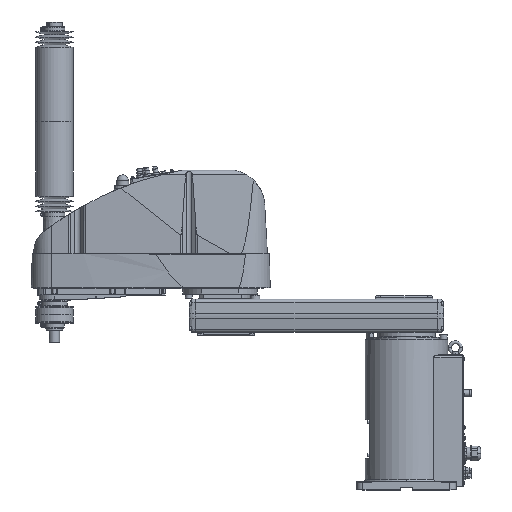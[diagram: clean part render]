
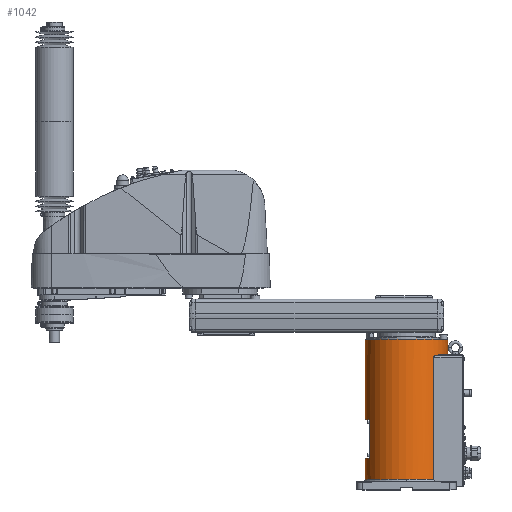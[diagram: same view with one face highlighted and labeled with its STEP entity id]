
A CAD part, top view. The second image highlights one B-rep face of the part: STEP entity #1042.
In plain terms, the highlighted cylindrical face has radius 100 mm (diameter 200 mm), a partial arc.
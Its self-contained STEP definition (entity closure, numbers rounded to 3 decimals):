
#1042 = ADVANCED_FACE( '', ( #3805 ), #3806, .T. );
#3805 = FACE_OUTER_BOUND( '', #8164, .T. );
#3806 = CYLINDRICAL_SURFACE( '', #8165, 100. );
#8164 = EDGE_LOOP( '', ( #16080, #16081, #16082, #16083, #16084, #16085, #16086, #16087, #16088, #16089, #16090, #16091, #16092, #16093, #16094, #16095 ) );
#8165 = AXIS2_PLACEMENT_3D( '', #16096, #16097, #16098 );
#16080 = ORIENTED_EDGE( '', *, *, #27199, .T. );
#16081 = ORIENTED_EDGE( '', *, *, #27916, .F. );
#16082 = ORIENTED_EDGE( '', *, *, #27213, .T. );
#16083 = ORIENTED_EDGE( '', *, *, #28051, .T. );
#16084 = ORIENTED_EDGE( '', *, *, #28049, .T. );
#16085 = ORIENTED_EDGE( '', *, *, #28039, .T. );
#16086 = ORIENTED_EDGE( '', *, *, #27209, .T. );
#16087 = ORIENTED_EDGE( '', *, *, #27551, .T. );
#16088 = ORIENTED_EDGE( '', *, *, #27548, .T. );
#16089 = ORIENTED_EDGE( '', *, *, #28193, .T. );
#16090 = ORIENTED_EDGE( '', *, *, #28157, .T. );
#16091 = ORIENTED_EDGE( '', *, *, #28199, .T. );
#16092 = ORIENTED_EDGE( '', *, *, #28659, .T. );
#16093 = ORIENTED_EDGE( '', *, *, #28660, .T. );
#16094 = ORIENTED_EDGE( '', *, *, #28661, .T. );
#16095 = ORIENTED_EDGE( '', *, *, #28662, .T. );
#16096 = CARTESIAN_POINT( '', ( 0., 194., 0. ) );
#16097 = DIRECTION( '', ( 0., -1., 0. ) );
#16098 = DIRECTION( '', ( 1., 0., 0. ) );
#27199 = EDGE_CURVE( '', #32278, #32279, #32280, .T. );
#27209 = EDGE_CURVE( '', #32299, #32297, #32300, .T. );
#27213 = EDGE_CURVE( '', #32307, #32305, #32308, .T. );
#27548 = EDGE_CURVE( '', #32952, #32957, #32959, .T. );
#27551 = EDGE_CURVE( '', #32297, #32952, #32963, .T. );
#27916 = EDGE_CURVE( '', #32307, #32279, #33560, .T. );
#28039 = EDGE_CURVE( '', #33760, #32299, #33761, .T. );
#28049 = EDGE_CURVE( '', #33779, #33760, #33780, .T. );
#28051 = EDGE_CURVE( '', #32305, #33779, #33782, .T. );
#28157 = EDGE_CURVE( '', #33949, #33947, #33950, .T. );
#28193 = EDGE_CURVE( '', #32957, #33949, #34014, .T. );
#28199 = EDGE_CURVE( '', #33947, #34021, #34023, .T. );
#28659 = EDGE_CURVE( '', #34021, #34685, #34686, .T. );
#28660 = EDGE_CURVE( '', #34685, #34687, #34688, .T. );
#28661 = EDGE_CURVE( '', #34687, #34689, #34690, .T. );
#28662 = EDGE_CURVE( '', #34689, #32278, #34691, .T. );
#32278 = VERTEX_POINT( '', #40584 );
#32279 = VERTEX_POINT( '', #40585 );
#32280 = LINE( '', #40586, #40587 );
#32297 = VERTEX_POINT( '', #40624 );
#32299 = VERTEX_POINT( '', #40626 );
#32300 = LINE( '', #40627, #40628 );
#32305 = VERTEX_POINT( '', #40634 );
#32307 = VERTEX_POINT( '', #40636 );
#32308 = LINE( '', #40637, #40638 );
#32952 = VERTEX_POINT( '', #41486 );
#32957 = VERTEX_POINT( '', #41491 );
#32959 = CIRCLE( '', #41520, 100. );
#32963 = CIRCLE( '', #41524, 100. );
#33560 = CIRCLE( '', #42453, 100. );
#33760 = VERTEX_POINT( '', #42766 );
#33761 = CIRCLE( '', #42767, 100. );
#33779 = VERTEX_POINT( '', #42794 );
#33780 = LINE( '', #42795, #42796 );
#33782 = CIRCLE( '', #42799, 100. );
#33947 = VERTEX_POINT( '', #43054 );
#33949 = VERTEX_POINT( '', #43057 );
#33950 = B_SPLINE_CURVE_WITH_KNOTS( '', 3, ( #43058, #43059, #43060, #43061, #43062, #43063, #43064, #43065, #43066, #43067, #43068, #43069, #43070, #43071, #43072, #43073, #43074, #43075 ), .UNSPECIFIED., .F., .F., ( 4, 2, 2, 2, 2, 2, 2, 2, 4 ), ( 14.722, 15.472, 16.222, 16.971, 17.721, 18.842, 19.962, 21.082, 22.202 ), .UNSPECIFIED. );
#34014 = LINE( '', #43173, #43174 );
#34021 = VERTEX_POINT( '', #43185 );
#34023 = CIRCLE( '', #43188, 100. );
#34685 = VERTEX_POINT( '', #44210 );
#34686 = LINE( '', #44211, #44212 );
#34687 = VERTEX_POINT( '', #44213 );
#34688 = CIRCLE( '', #44214, 100. );
#34689 = VERTEX_POINT( '', #44215 );
#34690 = LINE( '', #44216, #44217 );
#34691 = CIRCLE( '', #44218, 100. );
#40584 = CARTESIAN_POINT( '', ( 100., 324., 0. ) );
#40585 = CARTESIAN_POINT( '', ( 100., 363., 0. ) );
#40586 = CARTESIAN_POINT( '', ( 100., 194., 0. ) );
#40587 = VECTOR( '', #54313, 1. );
#40624 = CARTESIAN_POINT( '', ( -100., 25., 0. ) );
#40626 = CARTESIAN_POINT( '', ( -100., 76.7, 0. ) );
#40627 = CARTESIAN_POINT( '', ( -100., 194., 0. ) );
#40628 = VECTOR( '', #54332, 1. );
#40634 = CARTESIAN_POINT( '', ( -100., 169.7, 0. ) );
#40636 = CARTESIAN_POINT( '', ( -100., 363., 0. ) );
#40637 = CARTESIAN_POINT( '', ( -100., 194., 0. ) );
#40638 = VECTOR( '', #54340, 1. );
#41486 = CARTESIAN_POINT( '', ( 0., 25., 100. ) );
#41491 = CARTESIAN_POINT( '', ( 66.144, 25., 75. ) );
#41520 = AXIS2_PLACEMENT_3D( '', #55010, #55011, #55012 );
#41524 = AXIS2_PLACEMENT_3D( '', #55019, #55020, #55021 );
#42453 = AXIS2_PLACEMENT_3D( '', #55450, #55451, #55452 );
#42766 = CARTESIAN_POINT( '', ( -88., 76.7, 47.497 ) );
#42767 = AXIS2_PLACEMENT_3D( '', #55644, #55645, #55646 );
#42794 = CARTESIAN_POINT( '', ( -88., 169.7, 47.497 ) );
#42795 = CARTESIAN_POINT( '', ( -88., 123.2, 47.497 ) );
#42796 = VECTOR( '', #55656, 1. );
#42799 = AXIS2_PLACEMENT_3D( '', #55658, #55659, #55660 );
#43054 = CARTESIAN_POINT( '', ( 70.42, 324., 71. ) );
#43057 = CARTESIAN_POINT( '', ( 66.144, 320., 75. ) );
#43058 = CARTESIAN_POINT( '', ( 66.144, 320., 75. ) );
#43059 = CARTESIAN_POINT( '', ( 66.144, 320.25, 75. ) );
#43060 = CARTESIAN_POINT( '', ( 66.171, 320.503, 74.976 ) );
#43061 = CARTESIAN_POINT( '', ( 66.277, 320.995, 74.882 ) );
#43062 = CARTESIAN_POINT( '', ( 66.356, 321.234, 74.812 ) );
#43063 = CARTESIAN_POINT( '', ( 66.555, 321.685, 74.636 ) );
#43064 = CARTESIAN_POINT( '', ( 66.674, 321.897, 74.529 ) );
#43065 = CARTESIAN_POINT( '', ( 66.938, 322.284, 74.292 ) );
#43066 = CARTESIAN_POINT( '', ( 67.082, 322.458, 74.162 ) );
#43067 = CARTESIAN_POINT( '', ( 67.446, 322.842, 73.831 ) );
#43068 = CARTESIAN_POINT( '', ( 67.688, 323.046, 73.61 ) );
#43069 = CARTESIAN_POINT( '', ( 68.203, 323.396, 73.134 ) );
#43070 = CARTESIAN_POINT( '', ( 68.475, 323.543, 72.879 ) );
#43071 = CARTESIAN_POINT( '', ( 69.031, 323.776, 72.352 ) );
#43072 = CARTESIAN_POINT( '', ( 69.316, 323.861, 72.08 ) );
#43073 = CARTESIAN_POINT( '', ( 69.877, 323.974, 71.535 ) );
#43074 = CARTESIAN_POINT( '', ( 70.155, 324., 71.263 ) );
#43075 = CARTESIAN_POINT( '', ( 70.42, 324., 71. ) );
#43173 = CARTESIAN_POINT( '', ( 66.144, 172.5, 75. ) );
#43174 = VECTOR( '', #55831, 1. );
#43185 = CARTESIAN_POINT( '', ( 75.993, 324., 65. ) );
#43188 = AXIS2_PLACEMENT_3D( '', #55837, #55838, #55839 );
#44210 = CARTESIAN_POINT( '', ( 75.993, 326., 65. ) );
#44211 = CARTESIAN_POINT( '', ( 75.993, 325., 65. ) );
#44212 = VECTOR( '', #56667, 1. );
#44213 = CARTESIAN_POINT( '', ( 89.303, 326., 45. ) );
#44214 = AXIS2_PLACEMENT_3D( '', #56668, #56669, #56670 );
#44215 = CARTESIAN_POINT( '', ( 89.303, 324., 45. ) );
#44216 = CARTESIAN_POINT( '', ( 89.303, 325., 45. ) );
#44217 = VECTOR( '', #56671, 1. );
#44218 = AXIS2_PLACEMENT_3D( '', #56672, #56673, #56674 );
#54313 = DIRECTION( '', ( 0., 1., 0. ) );
#54332 = DIRECTION( '', ( 0., -1., 0. ) );
#54340 = DIRECTION( '', ( 0., -1., 0. ) );
#55010 = CARTESIAN_POINT( '', ( 0., 25., 0. ) );
#55011 = DIRECTION( '', ( 0., 1., 0. ) );
#55012 = DIRECTION( '', ( 1., 0., 0. ) );
#55019 = CARTESIAN_POINT( '', ( 0., 25., 0. ) );
#55020 = DIRECTION( '', ( 0., 1., 0. ) );
#55021 = DIRECTION( '', ( 1., 0., 0. ) );
#55450 = CARTESIAN_POINT( '', ( 0., 363., 0. ) );
#55451 = DIRECTION( '', ( 0., 1., 0. ) );
#55452 = DIRECTION( '', ( 1., 0., 0. ) );
#55644 = CARTESIAN_POINT( '', ( 0., 76.7, 0. ) );
#55645 = DIRECTION( '', ( 0., -1., 0. ) );
#55646 = DIRECTION( '', ( 1., 0., 0. ) );
#55656 = DIRECTION( '', ( 0., -1., 0. ) );
#55658 = CARTESIAN_POINT( '', ( 0., 169.7, 0. ) );
#55659 = DIRECTION( '', ( 0., 1., 0. ) );
#55660 = DIRECTION( '', ( 1., 0., 0. ) );
#55831 = DIRECTION( '', ( 0., 1., 0. ) );
#55837 = CARTESIAN_POINT( '', ( 0., 324., 0. ) );
#55838 = DIRECTION( '', ( 0., 1., 0. ) );
#55839 = DIRECTION( '', ( 1., 0., 0. ) );
#56667 = DIRECTION( '', ( 0., 1., 0. ) );
#56668 = CARTESIAN_POINT( '', ( 0., 326., 0. ) );
#56669 = DIRECTION( '', ( 0., 1., 0. ) );
#56670 = DIRECTION( '', ( 1., 0., 0. ) );
#56671 = DIRECTION( '', ( 0., -1., 0. ) );
#56672 = CARTESIAN_POINT( '', ( 0., 324., 0. ) );
#56673 = DIRECTION( '', ( 0., 1., 0. ) );
#56674 = DIRECTION( '', ( 1., 0., 0. ) );
